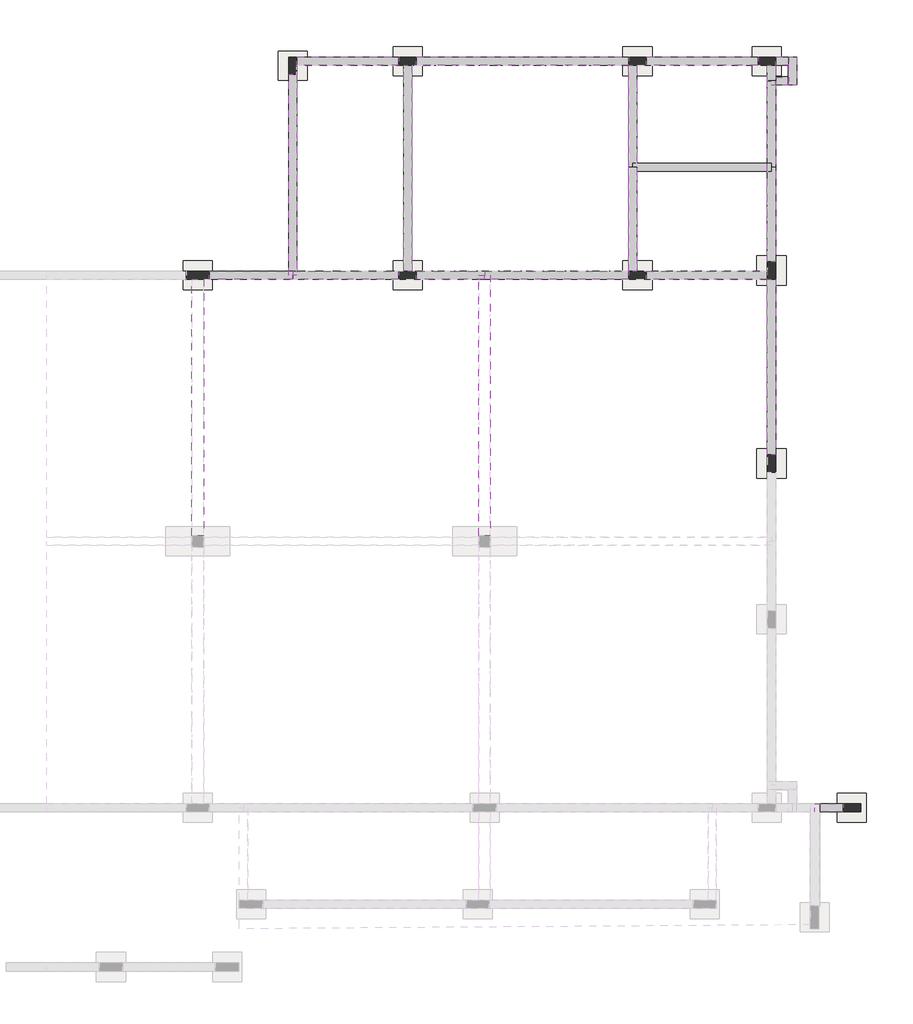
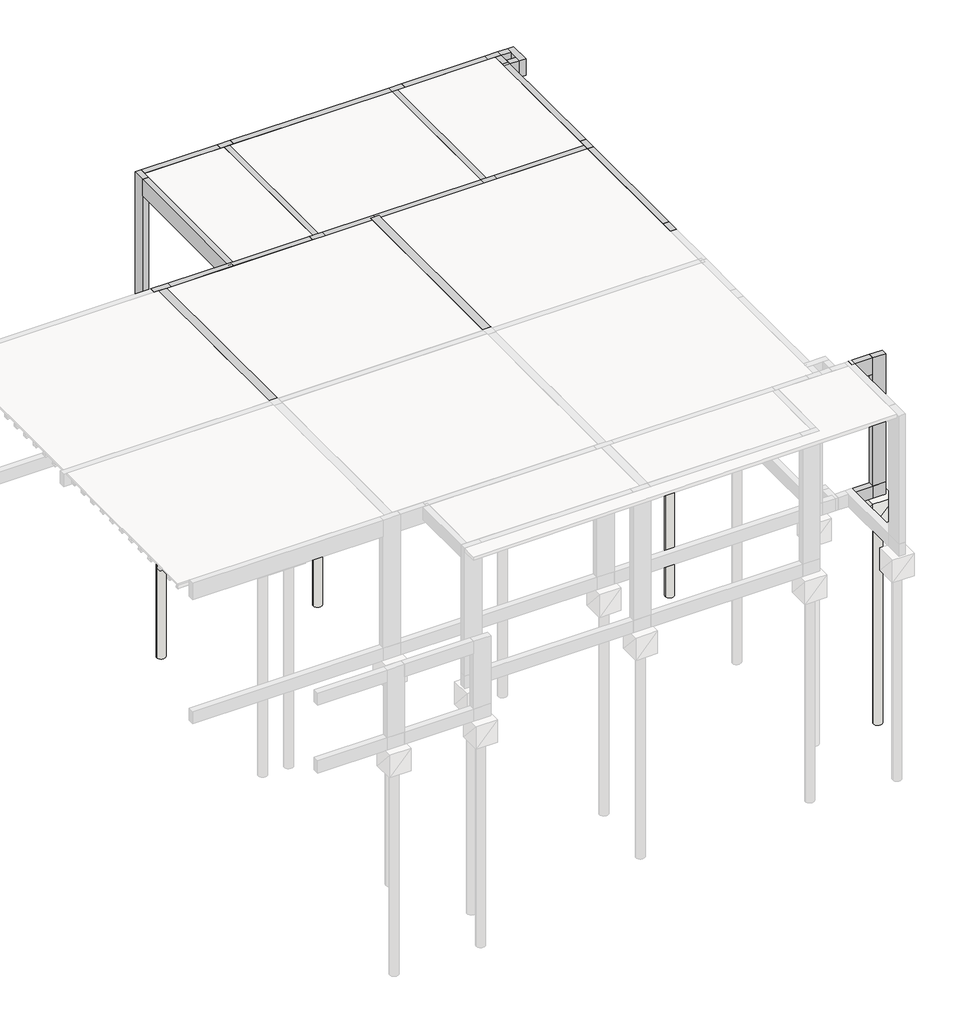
# One storey, part 3 of 3: 40 proxies, 20 columns, 20 slabs.
"""IFC4 building model written with IfcOpenShell, lengths in millimetres."""

from ifc_helpers import new_model, si_unit, frame, origin, place, context, project, spatial, polyline, outline, extrude, transform, mapped, element, save
from components import structural_framing_c8655752, structural_framing_d044a5ed, structural_framing_05d64cc5, structural_framing_bf974e39, structural_framing_10d8edc3, structural_framing_5a1a455a, structural_framing_cfa52355, structural_framing_f6c0dc64, structural_framing_83bffec5, structural_framing_72c06edc, structural_framing_643f2bae, structural_framing_d9bdb308, structural_framing_144cb592, structural_framing_d0034127, structural_framing_5b1cebb9, structural_framing_3b39ab38, structural_framing_35759c13, structural_framing_986f890b, structural_framing_ca52f5b1, structural_framing_7d851a28, structural_framing_ef9fb706, structural_framing_1697560d, structural_framing_acc67b91, structural_framing_e7eb55c1, structural_framing_fbb1ed2c, structural_framing_5a2c5dd1, structural_framing_ef02ec59, structural_framing_dde82e8f, structural_framing_08a6718a, structural_framing_a168797f, structural_framing_6da7eefd, structural_framing_2f219649, structural_framing_92795b1a, structural_framing_ee55f742, structural_framing_f22c1f19, structural_framing_65e5bc56, slab_b31ccf51, slab_1d791855, slab_a90a90da, slab_2d3f1c7f, slab_c764ccaf

model = new_model("IFC4")

# Units and contexts
model_context = context("Model", 3, world=origin())
ifc_project = project(units=[si_unit("LENGTHUNIT", "METRE", prefix="MILLI")], contexts=[model_context])

# Site, building, storey
site = spatial("IfcSite", under=ifc_project)
building = spatial("IfcBuilding", under=site)
storey = spatial("IfcBuildingStorey", under=building, Name="BALDRAME-FUNDAÇÃO", Elevation=240.0)

# Proxies
placement = place(None, origin())
structural_framing_shape = structural_framing_c8655752(model_context)
element("IfcBuildingElementProxy", 1, Name="Structural Framing", at=placement, inside=storey, context=model_context, shape_type="MappedRepresentation", body=[
    mapped(structural_framing_shape, transform((16029.8, 2810.0, 240.0), x_axis=(1.0, 0.0, 0.0), y_axis=(0.0, 1.0, 0.0), z_axis=(0.0, 0.0, 1.0))),
])
structural_framing_2_shape = structural_framing_d044a5ed(model_context)
element("IfcBuildingElementProxy", 2, Name="Structural Framing", at=placement, inside=storey, context=model_context, shape_type="MappedRepresentation", body=[
    mapped(structural_framing_2_shape, transform((12662.2, 12916.4, 240.0), x_axis=(1.0, 0.0, 0.0), y_axis=(0.0, 1.0, 0.0), z_axis=(0.0, 0.0, 1.0))),
])
structural_framing_3_shape = structural_framing_05d64cc5(model_context)
element("IfcBuildingElementProxy", 3, Name="Structural Framing", at=placement, inside=storey, context=model_context, shape_type="MappedRepresentation", body=[
    mapped(structural_framing_3_shape, transform((8793.8, 13792.6, 240.0), x_axis=(1.0, 0.0, 0.0), y_axis=(0.0, 1.0, 0.0), z_axis=(0.0, 0.0, 1.0))),
])
structural_framing_4_shape = structural_framing_bf974e39(model_context)
element("IfcBuildingElementProxy", 4, Name="Structural Framing", at=placement, inside=storey, context=model_context, shape_type="MappedRepresentation", body=[
    mapped(structural_framing_4_shape, transform((12662.2, 14683.8, 240.0), x_axis=(1.0, 0.0, 0.0), y_axis=(0.0, 1.0, 0.0), z_axis=(0.0, 0.0, 1.0))),
])
structural_framing_5_shape = structural_framing_10d8edc3(model_context)
element("IfcBuildingElementProxy", 5, Name="Structural Framing", at=placement, inside=storey, context=model_context, shape_type="MappedRepresentation", body=[
    mapped(structural_framing_5_shape, transform((6107.2, 11955.2, 240.0), x_axis=(1.0, 0.0, 0.0), y_axis=(0.0, 1.0, 0.0), z_axis=(0.0, 0.0, 1.0))),
])
structural_framing_6_shape = structural_framing_5a1a455a(model_context)
element("IfcBuildingElementProxy", 6, Name="Structural Framing", at=placement, inside=storey, context=model_context, shape_type="MappedRepresentation", body=[
    mapped(structural_framing_6_shape, transform((7733.8, 11955.2, 240.0), x_axis=(1.0, 0.0, 0.0), y_axis=(0.0, 1.0, 0.0), z_axis=(0.0, 0.0, 1.0))),
])
structural_framing_7_shape = structural_framing_cfa52355(model_context)
element("IfcBuildingElementProxy", 7, Name="Structural Framing", at=placement, inside=storey, context=model_context, shape_type="MappedRepresentation", body=[
    mapped(structural_framing_7_shape, transform((10768.0, 11955.2, 240.0), x_axis=(1.0, 0.0, 0.0), y_axis=(0.0, 1.0, 0.0), z_axis=(0.0, 0.0, 1.0))),
])
structural_framing_8_shape = structural_framing_f6c0dc64(model_context)
element("IfcBuildingElementProxy", 8, Name="Structural Framing", at=placement, inside=storey, context=model_context, shape_type="MappedRepresentation", body=[
    mapped(structural_framing_8_shape, transform((13932.0, 11955.2, 240.0), x_axis=(1.0, 0.0, 0.0), y_axis=(0.0, 1.0, 0.0), z_axis=(0.0, 0.0, 1.0))),
])
structural_framing_9_shape = structural_framing_83bffec5(model_context)
element("IfcBuildingElementProxy", 9, Name="Structural Framing", at=placement, inside=storey, context=model_context, shape_type="MappedRepresentation", body=[
    mapped(structural_framing_9_shape, transform((6823.8, 13677.6, 240.0), x_axis=(1.0, 0.0, 0.0), y_axis=(0.0, 1.0, 0.0), z_axis=(0.0, 0.0, 1.0))),
])
structural_framing_10_shape = structural_framing_72c06edc(model_context)
element("IfcBuildingElementProxy", 10, Name="Structural Framing", at=placement, inside=storey, context=model_context, shape_type="MappedRepresentation", body=[
    mapped(structural_framing_10_shape, transform((15041.8, 12996.4, 240.0), x_axis=(1.0, 0.0, 0.0), y_axis=(0.0, 1.0, 0.0), z_axis=(0.0, 0.0, 1.0))),
])
structural_framing_11_shape = structural_framing_643f2bae(model_context)
element("IfcBuildingElementProxy", 11, Name="Structural Framing", at=placement, inside=storey, context=model_context, shape_type="MappedRepresentation", body=[
    mapped(structural_framing_11_shape, transform((13852.0, 13807.6, 240.0), x_axis=(1.0, 0.0, 0.0), y_axis=(0.0, 1.0, 0.0), z_axis=(0.0, 0.0, 1.0))),
])
structural_framing_12_shape = structural_framing_d9bdb308(model_context)
element("IfcBuildingElementProxy", 12, Name="Structural Framing", at=placement, inside=storey, context=model_context, shape_type="MappedRepresentation", body=[
    mapped(structural_framing_12_shape, transform((15041.8, 10377.7, 240.0), x_axis=(1.0, 0.0, 0.0), y_axis=(0.0, 1.0, 0.0), z_axis=(0.0, 0.0, 1.0))),
])
structural_framing_13_shape = structural_framing_144cb592(model_context)
element("IfcBuildingElementProxy", 13, Name="Structural Framing", at=placement, inside=storey, context=model_context, shape_type="MappedRepresentation", body=[
    mapped(structural_framing_13_shape, transform((15041.8, 15390.0, 240.0), x_axis=(1.0, 0.0, 0.0), y_axis=(0.0, 1.0, 0.0), z_axis=(0.0, 0.0, 1.0))),
])
structural_framing_14_shape = structural_framing_d0034127(model_context)
element("IfcBuildingElementProxy", 14, Name="Structural Framing", at=placement, inside=storey, context=model_context, shape_type="MappedRepresentation", body=[
    mapped(structural_framing_14_shape, transform((15041.8, 14548.8, 240.0), x_axis=(1.0, 0.0, 0.0), y_axis=(0.0, 1.0, 0.0), z_axis=(0.0, 0.0, 1.0))),
])
structural_framing_15_shape = structural_framing_5b1cebb9(model_context)
element("IfcBuildingElementProxy", 15, Name="Structural Framing", at=placement, inside=storey, context=model_context, shape_type="MappedRepresentation", body=[
    mapped(structural_framing_15_shape, transform((7768.8, 15630.0, 240.0), x_axis=(1.0, 0.0, 0.0), y_axis=(0.0, 1.0, 0.0), z_axis=(0.0, 0.0, 1.0))),
])
element("IfcBuildingElementProxy", 16, Name="Structural Framing", at=placement, inside=storey, context=model_context, shape_type="MappedRepresentation", body=[
    mapped(structural_framing_7_shape, transform((10768.0, 15630.0, 240.0), x_axis=(1.0, 0.0, 0.0), y_axis=(0.0, 1.0, 0.0), z_axis=(0.0, 0.0, 1.0))),
])
structural_framing_16_shape = structural_framing_3b39ab38(model_context)
element("IfcBuildingElementProxy", 17, Name="Structural Framing", at=placement, inside=storey, context=model_context, shape_type="MappedRepresentation", body=[
    mapped(structural_framing_16_shape, transform((13852.0, 15630.0, 240.0), x_axis=(1.0, 0.0, 0.0), y_axis=(0.0, 1.0, 0.0), z_axis=(0.0, 0.0, 1.0))),
])
structural_framing_17_shape = structural_framing_35759c13(model_context)
element("IfcBuildingElementProxy", 18, Name="Structural Framing", at=placement, inside=storey, context=model_context, shape_type="MappedRepresentation", body=[
    mapped(structural_framing_17_shape, transform((15221.85, 15630.0, 240.0), x_axis=(1.0, 0.0, 0.0), y_axis=(0.0, 1.0, 0.0), z_axis=(0.0, 0.0, 1.0))),
])
structural_framing_18_shape = structural_framing_986f890b(model_context)
element("IfcBuildingElementProxy", 19, Name="Structural Framing", at=placement, inside=storey, context=model_context, shape_type="MappedRepresentation", body=[
    mapped(structural_framing_18_shape, transform((15401.9, 15460.0, 240.0), x_axis=(1.0, 0.0, 0.0), y_axis=(0.0, 1.0, 0.0), z_axis=(0.0, 0.0, 1.0))),
])
element("IfcBuildingElementProxy", 20, Name="Structural Framing", at=placement, inside=storey, context=model_context, shape_type="MappedRepresentation", body=[
    mapped(structural_framing_17_shape, transform((15221.85, 15290.0, 240.0), x_axis=(1.0, 0.0, 0.0), y_axis=(0.0, 1.0, 0.0), z_axis=(0.0, 0.0, 1.0))),
])
structural_framing_19_shape = structural_framing_ca52f5b1(model_context)
element("IfcBuildingElementProxy", 21, Name="Structural Framing", at=placement, inside=storey, context=model_context, shape_type="MappedRepresentation", body=[
    mapped(structural_framing_19_shape, transform((6823.8, 13677.6, 3360.0), x_axis=(1.0, 0.0, 0.0), y_axis=(0.0, 1.0, 0.0), z_axis=(0.0, 0.0, 1.0))),
])
element("IfcBuildingElementProxy", 22, Name="Structural Framing", at=placement, inside=storey, context=model_context, shape_type="MappedRepresentation", body=[
    mapped(structural_framing_3_shape, transform((12662.2, 13792.6, 3360.0), x_axis=(1.0, 0.0, 0.0), y_axis=(0.0, 1.0, 0.0), z_axis=(0.0, 0.0, 1.0))),
])
element("IfcBuildingElementProxy", 23, Name="Structural Framing", at=placement, inside=storey, context=model_context, shape_type="MappedRepresentation", body=[
    mapped(structural_framing_3_shape, transform((8793.8, 13792.6, 3360.0), x_axis=(1.0, 0.0, 0.0), y_axis=(0.0, 1.0, 0.0), z_axis=(0.0, 0.0, 1.0))),
])
structural_framing_20_shape = structural_framing_7d851a28(model_context)
element("IfcBuildingElementProxy", 24, Name="Structural Framing", at=placement, inside=storey, context=model_context, shape_type="MappedRepresentation", body=[
    mapped(structural_framing_20_shape, transform((6107.2, 11955.2, 3360.0), x_axis=(1.0, 0.0, 0.0), y_axis=(0.0, 1.0, 0.0), z_axis=(0.0, 0.0, 1.0))),
])
structural_framing_21_shape = structural_framing_ef9fb706(model_context)
element("IfcBuildingElementProxy", 25, Name="Structural Framing", at=placement, inside=storey, context=model_context, shape_type="MappedRepresentation", body=[
    mapped(structural_framing_21_shape, transform((7733.8, 11955.2, 3360.0), x_axis=(1.0, 0.0, 0.0), y_axis=(0.0, 1.0, 0.0), z_axis=(0.0, 0.0, 1.0))),
])
structural_framing_22_shape = structural_framing_1697560d(model_context)
element("IfcBuildingElementProxy", 26, Name="Structural Framing", at=placement, inside=storey, context=model_context, shape_type="MappedRepresentation", body=[
    mapped(structural_framing_22_shape, transform((9530.05, 11955.2, 3360.0), x_axis=(1.0, 0.0, 0.0), y_axis=(0.0, 1.0, 0.0), z_axis=(0.0, 0.0, 1.0))),
])
structural_framing_23_shape = structural_framing_acc67b91(model_context)
element("IfcBuildingElementProxy", 27, Name="Structural Framing", at=placement, inside=storey, context=model_context, shape_type="MappedRepresentation", body=[
    mapped(structural_framing_23_shape, transform((11354.25, 11955.2, 3360.0), x_axis=(1.0, 0.0, 0.0), y_axis=(0.0, 1.0, 0.0), z_axis=(0.0, 0.0, 1.0))),
])
structural_framing_24_shape = structural_framing_e7eb55c1(model_context)
element("IfcBuildingElementProxy", 28, Name="Structural Framing", at=placement, inside=storey, context=model_context, shape_type="MappedRepresentation", body=[
    mapped(structural_framing_24_shape, transform((13932.0, 11955.2, 3360.0), x_axis=(1.0, 0.0, 0.0), y_axis=(0.0, 1.0, 0.0), z_axis=(0.0, 0.0, 1.0))),
])
structural_framing_25_shape = structural_framing_fbb1ed2c(model_context)
element("IfcBuildingElementProxy", 29, Name="Structural Framing", at=placement, inside=storey, context=model_context, shape_type="MappedRepresentation", body=[
    mapped(structural_framing_25_shape, transform((16027.3, 2810.0, 3360.0), x_axis=(1.0, 0.0, 0.0), y_axis=(0.0, 1.0, 0.0), z_axis=(0.0, 0.0, 1.0))),
])
structural_framing_26_shape = structural_framing_5a2c5dd1(model_context)
element("IfcBuildingElementProxy", 30, Name="Structural Framing", at=placement, inside=storey, context=model_context, shape_type="MappedRepresentation", body=[
    mapped(structural_framing_26_shape, transform((5190.6, 9683.9, 3360.0), x_axis=(1.0, 0.0, 0.0), y_axis=(0.0, 1.0, 0.0), z_axis=(0.0, 0.0, 1.0))),
])
structural_framing_27_shape = structural_framing_ef02ec59(model_context)
element("IfcBuildingElementProxy", 31, Name="Structural Framing", at=placement, inside=storey, context=model_context, shape_type="MappedRepresentation", body=[
    mapped(structural_framing_27_shape, transform((10116.3, 9718.9, 3360.0), x_axis=(1.0, 0.0, 0.0), y_axis=(0.0, 1.0, 0.0), z_axis=(0.0, 0.0, 1.0))),
])
structural_framing_28_shape = structural_framing_dde82e8f(model_context)
element("IfcBuildingElementProxy", 32, Name="Structural Framing", at=placement, inside=storey, context=model_context, shape_type="MappedRepresentation", body=[
    mapped(structural_framing_28_shape, transform((15041.8, 15387.5, 3360.0), x_axis=(1.0, 0.0, 0.0), y_axis=(0.0, 1.0, 0.0), z_axis=(0.0, 0.0, 1.0))),
])
structural_framing_29_shape = structural_framing_08a6718a(model_context)
element("IfcBuildingElementProxy", 33, Name="Structural Framing", at=placement, inside=storey, context=model_context, shape_type="MappedRepresentation", body=[
    mapped(structural_framing_29_shape, transform((15041.8, 13735.1, 3360.0), x_axis=(1.0, 0.0, 0.0), y_axis=(0.0, 1.0, 0.0), z_axis=(0.0, 0.0, 1.0))),
])
structural_framing_30_shape = structural_framing_a168797f(model_context)
element("IfcBuildingElementProxy", 34, Name="Structural Framing", at=placement, inside=storey, context=model_context, shape_type="MappedRepresentation", body=[
    mapped(structural_framing_30_shape, transform((7768.8, 15630.0, 3360.0), x_axis=(1.0, 0.0, 0.0), y_axis=(0.0, 1.0, 0.0), z_axis=(0.0, 0.0, 1.0))),
])
structural_framing_31_shape = structural_framing_6da7eefd(model_context)
element("IfcBuildingElementProxy", 35, Name="Structural Framing", at=placement, inside=storey, context=model_context, shape_type="MappedRepresentation", body=[
    mapped(structural_framing_31_shape, transform((10768.0, 15630.0, 3360.0), x_axis=(1.0, 0.0, 0.0), y_axis=(0.0, 1.0, 0.0), z_axis=(0.0, 0.0, 1.0))),
])
structural_framing_32_shape = structural_framing_2f219649(model_context)
element("IfcBuildingElementProxy", 36, Name="Structural Framing", at=placement, inside=storey, context=model_context, shape_type="MappedRepresentation", body=[
    mapped(structural_framing_32_shape, transform((13852.0, 15630.0, 3360.0), x_axis=(1.0, 0.0, 0.0), y_axis=(0.0, 1.0, 0.0), z_axis=(0.0, 0.0, 1.0))),
])
structural_framing_33_shape = structural_framing_92795b1a(model_context)
element("IfcBuildingElementProxy", 37, Name="Structural Framing", at=placement, inside=storey, context=model_context, shape_type="MappedRepresentation", body=[
    mapped(structural_framing_33_shape, transform((15224.35, 15630.0, 3360.0), x_axis=(1.0, 0.0, 0.0), y_axis=(0.0, 1.0, 0.0), z_axis=(0.0, 0.0, 1.0))),
])
structural_framing_34_shape = structural_framing_ee55f742(model_context)
element("IfcBuildingElementProxy", 38, Name="Structural Framing", at=placement, inside=storey, context=model_context, shape_type="MappedRepresentation", body=[
    mapped(structural_framing_34_shape, transform((15406.9, 15457.5, 3360.0), x_axis=(1.0, 0.0, 0.0), y_axis=(0.0, 1.0, 0.0), z_axis=(0.0, 0.0, 1.0))),
])
structural_framing_35_shape = structural_framing_f22c1f19(model_context)
element("IfcBuildingElementProxy", 39, Name="Structural Framing", at=placement, inside=storey, context=model_context, shape_type="MappedRepresentation", body=[
    mapped(structural_framing_35_shape, transform((15224.35, 15285.0, 3360.0), x_axis=(1.0, 0.0, 0.0), y_axis=(0.0, 1.0, 0.0), z_axis=(0.0, 0.0, 1.0))),
])
structural_framing_36_shape = structural_framing_65e5bc56(model_context)
element("IfcBuildingElementProxy", 40, Name="Structural Framing", at=placement, inside=storey, context=model_context, shape_type="MappedRepresentation", body=[
    mapped(structural_framing_36_shape, transform((15041.8, 10377.7, 3360.0), x_axis=(1.0, 0.0, 0.0), y_axis=(0.0, 1.0, 0.0), z_axis=(0.0, 0.0, 1.0))),
])

# Columns
element("IfcColumn", 41, at=placement, inside=storey, context=model_context, shape_type="SweptSolid", body=[
    extrude(outline(polyline([(12892.2, 12025.2), (12892.2, 11885.2), (12592.2, 11885.2), (12592.2, 12025.2), (12892.2, 12025.2)])), frame((0.0, 0.0, -60.0), z_axis=(0.0, 0.0, 1.0), x_axis=(1.0, 0.0, 0.0)), (0.0, 0.0, 1.0), 300.0),
    extrude(outline(polyline([(12892.2, 12025.2), (12892.2, 11885.2), (12592.2, 11885.2), (12592.2, 12025.2), (12892.2, 12025.2)])), frame((0.0, 0.0, -60.0), z_axis=(0.0, 0.0, 1.0), x_axis=(1.0, 0.0, 0.0)), (0.0, 0.0, 1.0), 300.0),
])
element("IfcColumn", 42, at=placement, inside=storey, context=model_context, shape_type="SweptSolid", body=[
    extrude(outline(polyline([(16572.3, 2880.0), (16572.3, 2740.0), (16272.3, 2740.0), (16272.3, 2880.0), (16572.3, 2880.0)])), frame((0.0, 0.0, -60.0), z_axis=(0.0, 0.0, 1.0), x_axis=(1.0, 0.0, 0.0)), (0.0, 0.0, 1.0), 300.0),
    extrude(outline(polyline([(16572.3, 2880.0), (16572.3, 2740.0), (16272.3, 2740.0), (16272.3, 2880.0), (16572.3, 2880.0)])), frame((0.0, 0.0, -60.0), z_axis=(0.0, 0.0, 1.0), x_axis=(1.0, 0.0, 0.0)), (0.0, 0.0, 1.0), 300.0),
])
element("IfcColumn", 43, at=placement, inside=storey, context=model_context, shape_type="SweptSolid", body=[
    extrude(outline(polyline([(14971.8, 12185.2), (15111.8, 12185.2), (15111.8, 11885.2), (14971.8, 11885.2), (14971.8, 12185.2)])), frame((0.0, 0.0, -60.0), z_axis=(0.0, 0.0, 1.0), x_axis=(1.0, 0.0, 0.0)), (0.0, 0.0, 1.0), 300.0),
    extrude(outline(polyline([(14971.8, 12185.2), (15111.8, 12185.2), (15111.8, 11885.2), (14971.8, 11885.2), (14971.8, 12185.2)])), frame((0.0, 0.0, -60.0), z_axis=(0.0, 0.0, 1.0), x_axis=(1.0, 0.0, 0.0)), (0.0, 0.0, 1.0), 300.0),
])
element("IfcColumn", 44, at=placement, inside=storey, context=model_context, shape_type="SweptSolid", body=[
    extrude(outline(polyline([(14971.9, 8870.2), (15111.9, 8870.2), (15111.9, 8570.2), (14971.9, 8570.2), (14971.9, 8870.2)])), frame((0.0, 0.0, -60.0), z_axis=(0.0, 0.0, 1.0), x_axis=(1.0, 0.0, 0.0)), (0.0, 0.0, 1.0), 300.0),
    extrude(outline(polyline([(14971.9, 8870.2), (15111.9, 8870.2), (15111.9, 8570.2), (14971.9, 8570.2), (14971.9, 8870.2)])), frame((0.0, 0.0, -60.0), z_axis=(0.0, 0.0, 1.0), x_axis=(1.0, 0.0, 0.0)), (0.0, 0.0, 1.0), 300.0),
])
element("IfcColumn", 45, at=placement, inside=storey, context=model_context, shape_type="SweptSolid", body=[
    extrude(outline(polyline([(6753.8, 15700.0), (6893.8, 15700.0), (6893.8, 15400.0), (6753.8, 15400.0), (6753.8, 15700.0)])), frame((0.0, 0.0, -60.0), z_axis=(0.0, 0.0, 1.0), x_axis=(1.0, 0.0, 0.0)), (0.0, 0.0, 1.0), 300.0),
    extrude(outline(polyline([(6753.8, 15700.0), (6893.8, 15700.0), (6893.8, 15400.0), (6753.8, 15400.0), (6753.8, 15700.0)])), frame((0.0, 0.0, -60.0), z_axis=(0.0, 0.0, 1.0), x_axis=(1.0, 0.0, 0.0)), (0.0, 0.0, 1.0), 300.0),
])
element("IfcColumn", 46, at=placement, inside=storey, context=model_context, shape_type="SweptSolid", body=[
    extrude(outline(polyline([(5390.6, 12025.2), (5390.6, 11885.2), (4990.6, 11885.2), (4990.6, 12025.2), (5390.6, 12025.2)])), frame((0.0, 0.0, -60.0), z_axis=(0.0, 0.0, 1.0), x_axis=(1.0, 0.0, 0.0)), (0.0, 0.0, 1.0), 300.0),
    extrude(outline(polyline([(5390.6, 12025.2), (5390.6, 11885.2), (4990.6, 11885.2), (4990.6, 12025.2), (5390.6, 12025.2)])), frame((0.0, 0.0, -60.0), z_axis=(0.0, 0.0, 1.0), x_axis=(1.0, 0.0, 0.0)), (0.0, 0.0, 1.0), 300.0),
])
element("IfcColumn", 47, at=placement, inside=storey, context=model_context, shape_type="SweptSolid", body=[
    extrude(outline(polyline([(8943.8, 15700.0), (8943.8, 15560.0), (8643.8, 15560.0), (8643.8, 15700.0), (8943.8, 15700.0)])), frame((0.0, 0.0, -60.0), z_axis=(0.0, 0.0, 1.0), x_axis=(1.0, 0.0, 0.0)), (0.0, 0.0, 1.0), 300.0),
    extrude(outline(polyline([(8943.8, 15700.0), (8943.8, 15560.0), (8643.8, 15560.0), (8643.8, 15700.0), (8943.8, 15700.0)])), frame((0.0, 0.0, -60.0), z_axis=(0.0, 0.0, 1.0), x_axis=(1.0, 0.0, 0.0)), (0.0, 0.0, 1.0), 300.0),
])
element("IfcColumn", 48, at=placement, inside=storey, context=model_context, shape_type="SweptSolid", body=[
    extrude(outline(polyline([(8943.8, 12025.2), (8943.8, 11885.2), (8643.8, 11885.2), (8643.8, 12025.2), (8943.8, 12025.2)])), frame((0.0, 0.0, -60.0), z_axis=(0.0, 0.0, 1.0), x_axis=(1.0, 0.0, 0.0)), (0.0, 0.0, 1.0), 300.0),
    extrude(outline(polyline([(8943.8, 12025.2), (8943.8, 11885.2), (8643.8, 11885.2), (8643.8, 12025.2), (8943.8, 12025.2)])), frame((0.0, 0.0, -60.0), z_axis=(0.0, 0.0, 1.0), x_axis=(1.0, 0.0, 0.0)), (0.0, 0.0, 1.0), 300.0),
])
element("IfcColumn", 49, at=placement, inside=storey, context=model_context, shape_type="SweptSolid", body=[
    extrude(outline(polyline([(12892.2, 15700.0), (12892.2, 15560.0), (12592.2, 15560.0), (12592.2, 15700.0), (12892.2, 15700.0)])), frame((0.0, 0.0, -60.0), z_axis=(0.0, 0.0, 1.0), x_axis=(1.0, 0.0, 0.0)), (0.0, 0.0, 1.0), 300.0),
    extrude(outline(polyline([(12892.2, 15700.0), (12892.2, 15560.0), (12592.2, 15560.0), (12592.2, 15700.0), (12892.2, 15700.0)])), frame((0.0, 0.0, -60.0), z_axis=(0.0, 0.0, 1.0), x_axis=(1.0, 0.0, 0.0)), (0.0, 0.0, 1.0), 300.0),
])
element("IfcColumn", 50, at=placement, inside=storey, context=model_context, shape_type="SweptSolid", body=[
    extrude(outline(polyline([(15111.8, 15700.0), (15111.8, 15560.0), (14811.8, 15560.0), (14811.8, 15700.0), (15111.8, 15700.0)])), frame((0.0, 0.0, -60.0), z_axis=(0.0, 0.0, 1.0), x_axis=(1.0, 0.0, 0.0)), (0.0, 0.0, 1.0), 300.0),
    extrude(outline(polyline([(15111.8, 15700.0), (15111.8, 15560.0), (14811.8, 15560.0), (14811.8, 15700.0), (15111.8, 15700.0)])), frame((0.0, 0.0, -60.0), z_axis=(0.0, 0.0, 1.0), x_axis=(1.0, 0.0, 0.0)), (0.0, 0.0, 1.0), 300.0),
])
element("IfcColumn", 51, at=placement, inside=storey, context=model_context, shape_type="SweptSolid", body=[
    extrude(outline(polyline([(14971.8, 12185.2), (15111.8, 12185.2), (15111.8, 11885.2), (14971.8, 11885.2), (14971.8, 12185.2)])), frame((0.0, 0.0, 240.0), z_axis=(0.0, 0.0, 1.0), x_axis=(1.0, 0.0, 0.0)), (0.0, 0.0, 1.0), 3120.0),
    extrude(outline(polyline([(14971.8, 12185.2), (15111.8, 12185.2), (15111.8, 11885.2), (14971.8, 11885.2), (14971.8, 12185.2)])), frame((0.0, 0.0, 240.0), z_axis=(0.0, 0.0, 1.0), x_axis=(1.0, 0.0, 0.0)), (0.0, 0.0, 1.0), 3120.0),
])
element("IfcColumn", 52, at=placement, inside=storey, context=model_context, shape_type="SweptSolid", body=[
    extrude(outline(polyline([(12892.2, 12025.2), (12892.2, 11885.2), (12592.2, 11885.2), (12592.2, 12025.2), (12892.2, 12025.2)])), frame((0.0, 0.0, 240.0), z_axis=(0.0, 0.0, 1.0), x_axis=(1.0, 0.0, 0.0)), (0.0, 0.0, 1.0), 3120.0),
    extrude(outline(polyline([(12892.2, 12025.2), (12892.2, 11885.2), (12592.2, 11885.2), (12592.2, 12025.2), (12892.2, 12025.2)])), frame((0.0, 0.0, 240.0), z_axis=(0.0, 0.0, 1.0), x_axis=(1.0, 0.0, 0.0)), (0.0, 0.0, 1.0), 3120.0),
])
element("IfcColumn", 53, at=placement, inside=storey, context=model_context, shape_type="SweptSolid", body=[
    extrude(outline(polyline([(16572.3, 2880.0), (16572.3, 2740.0), (16272.3, 2740.0), (16272.3, 2880.0), (16572.3, 2880.0)])), frame((0.0, 0.0, 240.0), z_axis=(0.0, 0.0, 1.0), x_axis=(1.0, 0.0, 0.0)), (0.0, 0.0, 1.0), 3120.0),
    extrude(outline(polyline([(16572.3, 2880.0), (16572.3, 2740.0), (16272.3, 2740.0), (16272.3, 2880.0), (16572.3, 2880.0)])), frame((0.0, 0.0, 240.0), z_axis=(0.0, 0.0, 1.0), x_axis=(1.0, 0.0, 0.0)), (0.0, 0.0, 1.0), 3120.0),
])
element("IfcColumn", 54, at=placement, inside=storey, context=model_context, shape_type="SweptSolid", body=[
    extrude(outline(polyline([(6753.8, 15700.0), (6893.8, 15700.0), (6893.8, 15400.0), (6753.8, 15400.0), (6753.8, 15700.0)])), frame((0.0, 0.0, 240.0), z_axis=(0.0, 0.0, 1.0), x_axis=(1.0, 0.0, 0.0)), (0.0, 0.0, 1.0), 3120.0),
    extrude(outline(polyline([(6753.8, 15700.0), (6893.8, 15700.0), (6893.8, 15400.0), (6753.8, 15400.0), (6753.8, 15700.0)])), frame((0.0, 0.0, 240.0), z_axis=(0.0, 0.0, 1.0), x_axis=(1.0, 0.0, 0.0)), (0.0, 0.0, 1.0), 3120.0),
])
element("IfcColumn", 55, at=placement, inside=storey, context=model_context, shape_type="SweptSolid", body=[
    extrude(outline(polyline([(5390.6, 12025.2), (5390.6, 11885.2), (4990.6, 11885.2), (4990.6, 12025.2), (5390.6, 12025.2)])), frame((0.0, 0.0, 240.0), z_axis=(0.0, 0.0, 1.0), x_axis=(1.0, 0.0, 0.0)), (0.0, 0.0, 1.0), 3120.0),
    extrude(outline(polyline([(5390.6, 12025.2), (5390.6, 11885.2), (4990.6, 11885.2), (4990.6, 12025.2), (5390.6, 12025.2)])), frame((0.0, 0.0, 240.0), z_axis=(0.0, 0.0, 1.0), x_axis=(1.0, 0.0, 0.0)), (0.0, 0.0, 1.0), 3120.0),
])
element("IfcColumn", 56, at=placement, inside=storey, context=model_context, shape_type="SweptSolid", body=[
    extrude(outline(polyline([(8943.8, 15700.0), (8943.8, 15560.0), (8643.8, 15560.0), (8643.8, 15700.0), (8943.8, 15700.0)])), frame((0.0, 0.0, 240.0), z_axis=(0.0, 0.0, 1.0), x_axis=(1.0, 0.0, 0.0)), (0.0, 0.0, 1.0), 3120.0),
    extrude(outline(polyline([(8943.8, 15700.0), (8943.8, 15560.0), (8643.8, 15560.0), (8643.8, 15700.0), (8943.8, 15700.0)])), frame((0.0, 0.0, 240.0), z_axis=(0.0, 0.0, 1.0), x_axis=(1.0, 0.0, 0.0)), (0.0, 0.0, 1.0), 3120.0),
])
element("IfcColumn", 57, at=placement, inside=storey, context=model_context, shape_type="SweptSolid", body=[
    extrude(outline(polyline([(8943.8, 12025.2), (8943.8, 11885.2), (8643.8, 11885.2), (8643.8, 12025.2), (8943.8, 12025.2)])), frame((0.0, 0.0, 240.0), z_axis=(0.0, 0.0, 1.0), x_axis=(1.0, 0.0, 0.0)), (0.0, 0.0, 1.0), 3120.0),
    extrude(outline(polyline([(8943.8, 12025.2), (8943.8, 11885.2), (8643.8, 11885.2), (8643.8, 12025.2), (8943.8, 12025.2)])), frame((0.0, 0.0, 240.0), z_axis=(0.0, 0.0, 1.0), x_axis=(1.0, 0.0, 0.0)), (0.0, 0.0, 1.0), 3120.0),
])
element("IfcColumn", 58, at=placement, inside=storey, context=model_context, shape_type="SweptSolid", body=[
    extrude(outline(polyline([(15111.8, 15700.0), (15111.8, 15560.0), (14811.8, 15560.0), (14811.8, 15700.0), (15111.8, 15700.0)])), frame((0.0, 0.0, 240.0), z_axis=(0.0, 0.0, 1.0), x_axis=(1.0, 0.0, 0.0)), (0.0, 0.0, 1.0), 3120.0),
    extrude(outline(polyline([(15111.8, 15700.0), (15111.8, 15560.0), (14811.8, 15560.0), (14811.8, 15700.0), (15111.8, 15700.0)])), frame((0.0, 0.0, 240.0), z_axis=(0.0, 0.0, 1.0), x_axis=(1.0, 0.0, 0.0)), (0.0, 0.0, 1.0), 3120.0),
])
element("IfcColumn", 59, at=placement, inside=storey, context=model_context, shape_type="SweptSolid", body=[
    extrude(outline(polyline([(14971.9, 8870.2), (15111.9, 8870.2), (15111.9, 8570.2), (14971.9, 8570.2), (14971.9, 8870.2)])), frame((0.0, 0.0, 240.0), z_axis=(0.0, 0.0, 1.0), x_axis=(1.0, 0.0, 0.0)), (0.0, 0.0, 1.0), 3120.0),
    extrude(outline(polyline([(14971.9, 8870.2), (15111.9, 8870.2), (15111.9, 8570.2), (14971.9, 8570.2), (14971.9, 8870.2)])), frame((0.0, 0.0, 240.0), z_axis=(0.0, 0.0, 1.0), x_axis=(1.0, 0.0, 0.0)), (0.0, 0.0, 1.0), 3120.0),
])
element("IfcColumn", 60, at=placement, inside=storey, context=model_context, shape_type="SweptSolid", body=[
    extrude(outline(polyline([(12892.2, 15700.0), (12892.2, 15560.0), (12592.2, 15560.0), (12592.2, 15700.0), (12892.2, 15700.0)])), frame((0.0, 0.0, 240.0), z_axis=(0.0, 0.0, 1.0), x_axis=(1.0, 0.0, 0.0)), (0.0, 0.0, 1.0), 3120.0),
    extrude(outline(polyline([(12892.2, 15700.0), (12892.2, 15560.0), (12592.2, 15560.0), (12592.2, 15700.0), (12892.2, 15700.0)])), frame((0.0, 0.0, 240.0), z_axis=(0.0, 0.0, 1.0), x_axis=(1.0, 0.0, 0.0)), (0.0, 0.0, 1.0), 3120.0),
])

# Slabs
slab_shape = slab_b31ccf51(model_context)
element("IfcSlab", 61, at=placement, inside=storey, context=model_context, shape_type="MappedRepresentation", body=[
    mapped(slab_shape, transform((15041.9, 8720.2, -60.0), x_axis=(1.0, 0.0, 0.0), y_axis=(0.0, 1.0, 0.0), z_axis=(0.0, 0.0, 1.0))),
])
element("IfcSlab", 62, at=placement, inside=storey, context=model_context, shape_type="MappedRepresentation", body=[
    mapped(slab_shape, transform((6823.8, 15550.0, -60.0), x_axis=(1.0, 0.0, 0.0), y_axis=(0.0, 1.0, 0.0), z_axis=(0.0, 0.0, 1.0))),
])
slab_2_shape = slab_1d791855(model_context)
element("IfcSlab", 63, at=placement, inside=storey, context=model_context, shape_type="MappedRepresentation", body=[
    mapped(slab_2_shape, transform((6823.8, 15550.0, -460.0), x_axis=(1.0, 0.0, 0.0), y_axis=(0.0, 1.0, 0.0), z_axis=(0.0, 0.0, 1.0))),
])
element("IfcSlab", 64, at=placement, inside=storey, context=model_context, shape_type="MappedRepresentation", body=[
    mapped(slab_2_shape, transform((15041.9, 8720.2, -460.0), x_axis=(1.0, 0.0, 0.0), y_axis=(0.0, 1.0, 0.0), z_axis=(0.0, 0.0, 1.0))),
])
slab_3_shape = slab_a90a90da(model_context)
element("IfcSlab", 65, at=placement, inside=storey, context=model_context, shape_type="MappedRepresentation", body=[
    mapped(slab_3_shape, transform((15041.8, 12035.2, -60.0), x_axis=(1.0, 0.0, 0.0), y_axis=(0.0, 1.0, 0.0), z_axis=(0.0, 0.0, 1.0))),
])
element("IfcSlab", 66, at=placement, inside=storey, context=model_context, shape_type="MappedRepresentation", body=[
    mapped(slab_2_shape, transform((15041.8, 12035.2, -560.0), x_axis=(1.0, 0.0, 0.0), y_axis=(0.0, 1.0, 0.0), z_axis=(0.0, 0.0, 1.0))),
])
slab_4_shape = slab_2d3f1c7f(model_context)
element("IfcSlab", 67, at=placement, inside=storey, context=model_context, shape_type="MappedRepresentation", body=[
    mapped(slab_4_shape, transform((14961.8, 15630.0, -60.0), x_axis=(1.0, 0.0, 0.0), y_axis=(0.0, 1.0, 0.0), z_axis=(0.0, 0.0, 1.0))),
])
element("IfcSlab", 68, at=placement, inside=storey, context=model_context, shape_type="MappedRepresentation", body=[
    mapped(slab_2_shape, transform((14961.8, 15630.0, -560.0), x_axis=(1.0, 0.0, 0.0), y_axis=(0.0, 1.0, 0.0), z_axis=(0.0, 0.0, 1.0))),
])
slab_5_shape = slab_c764ccaf(model_context)
element("IfcSlab", 69, at=placement, inside=storey, context=model_context, shape_type="MappedRepresentation", body=[
    mapped(slab_5_shape, transform((16422.3, 2810.0, -60.0), x_axis=(1.0, 0.0, 0.0), y_axis=(0.0, 1.0, 0.0), z_axis=(0.0, 0.0, 1.0))),
])
element("IfcSlab", 70, at=placement, inside=storey, context=model_context, shape_type="MappedRepresentation", body=[
    mapped(slab_2_shape, transform((16422.3, 2810.0, -460.0), x_axis=(1.0, 0.0, 0.0), y_axis=(0.0, 1.0, 0.0), z_axis=(0.0, 0.0, 1.0))),
])
element("IfcSlab", 71, at=placement, inside=storey, context=model_context, shape_type="MappedRepresentation", body=[
    mapped(slab_4_shape, transform((12742.2, 11955.2, -60.0), x_axis=(1.0, 0.0, 0.0), y_axis=(0.0, 1.0, 0.0), z_axis=(0.0, 0.0, 1.0))),
])
element("IfcSlab", 72, at=placement, inside=storey, context=model_context, shape_type="MappedRepresentation", body=[
    mapped(slab_2_shape, transform((12742.2, 11955.2, -560.0), x_axis=(1.0, 0.0, 0.0), y_axis=(0.0, 1.0, 0.0), z_axis=(0.0, 0.0, 1.0))),
])
element("IfcSlab", 73, at=placement, inside=storey, context=model_context, shape_type="MappedRepresentation", body=[
    mapped(slab_4_shape, transform((12742.2, 15630.0, -60.0), x_axis=(1.0, 0.0, 0.0), y_axis=(0.0, 1.0, 0.0), z_axis=(0.0, 0.0, 1.0))),
])
element("IfcSlab", 74, at=placement, inside=storey, context=model_context, shape_type="MappedRepresentation", body=[
    mapped(slab_2_shape, transform((12742.2, 15630.0, -560.0), x_axis=(1.0, 0.0, 0.0), y_axis=(0.0, 1.0, 0.0), z_axis=(0.0, 0.0, 1.0))),
])
element("IfcSlab", 75, at=placement, inside=storey, context=model_context, shape_type="MappedRepresentation", body=[
    mapped(slab_5_shape, transform((8793.8, 11955.2, -60.0), x_axis=(1.0, 0.0, 0.0), y_axis=(0.0, 1.0, 0.0), z_axis=(0.0, 0.0, 1.0))),
])
element("IfcSlab", 76, at=placement, inside=storey, context=model_context, shape_type="MappedRepresentation", body=[
    mapped(slab_2_shape, transform((8793.8, 11955.2, -460.0), x_axis=(1.0, 0.0, 0.0), y_axis=(0.0, 1.0, 0.0), z_axis=(0.0, 0.0, 1.0))),
])
element("IfcSlab", 77, at=placement, inside=storey, context=model_context, shape_type="MappedRepresentation", body=[
    mapped(slab_5_shape, transform((8793.8, 15630.0, -60.0), x_axis=(1.0, 0.0, 0.0), y_axis=(0.0, 1.0, 0.0), z_axis=(0.0, 0.0, 1.0))),
])
element("IfcSlab", 78, at=placement, inside=storey, context=model_context, shape_type="MappedRepresentation", body=[
    mapped(slab_2_shape, transform((8793.8, 15630.0, -460.0), x_axis=(1.0, 0.0, 0.0), y_axis=(0.0, 1.0, 0.0), z_axis=(0.0, 0.0, 1.0))),
])
element("IfcSlab", 79, at=placement, inside=storey, context=model_context, shape_type="MappedRepresentation", body=[
    mapped(slab_5_shape, transform((5190.6, 11955.2, -60.0), x_axis=(1.0, 0.0, 0.0), y_axis=(0.0, 1.0, 0.0), z_axis=(0.0, 0.0, 1.0))),
])
element("IfcSlab", 80, at=placement, inside=storey, context=model_context, shape_type="MappedRepresentation", body=[
    mapped(slab_2_shape, transform((5190.6, 11955.2, -460.0), x_axis=(1.0, 0.0, 0.0), y_axis=(0.0, 1.0, 0.0), z_axis=(0.0, 0.0, 1.0))),
])

save(model, "model.ifc")
